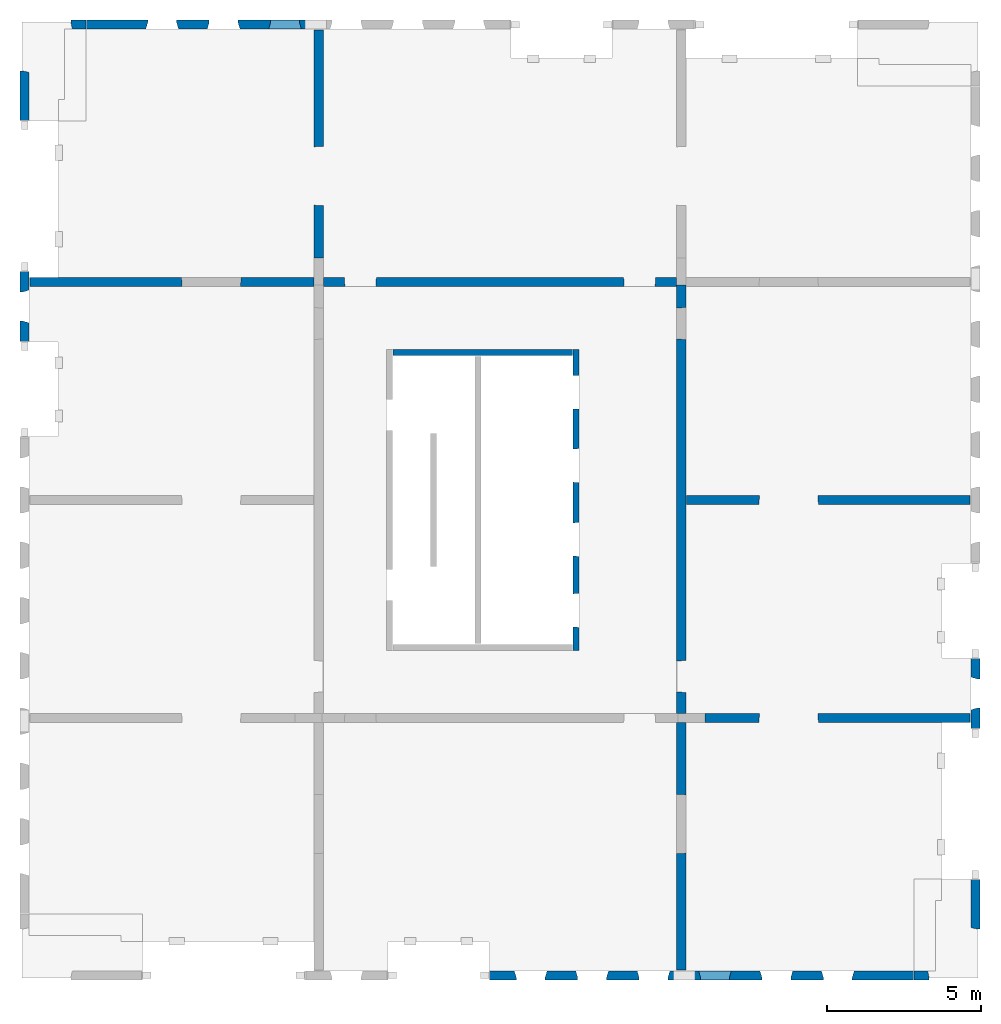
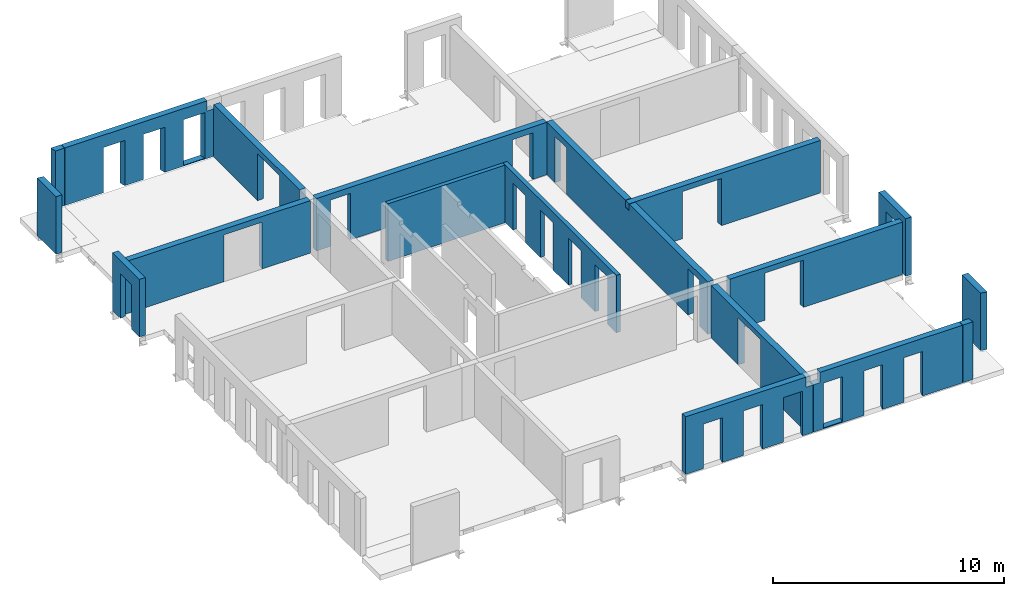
# One storey, part 3 of 4: 18 walls, 33 openings.
"""IFC2X3 building model written with IfcOpenShell, lengths in millimetres."""

from ifc_helpers import new_model, entity, si_unit, converted_unit, derived_unit, direction, frame, frame_2d, origin, origin_2d_with_axis, place, context, subcontext, project, spatial, rectangle, extrude, faceted_brep, material, layer, layer_set, layer_usage, type_object, element, save


model = new_model("IFC2X3")

# Units and contexts
model_context = context("Model", 3, precision=0.01, world=origin(), true_north=direction((6.12303176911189e-17, 1.0)))
body_context = subcontext(model_context, "Body", "Model", "MODEL_VIEW")
ifc_project = project(units=[si_unit("LENGTHUNIT", "METRE", prefix="MILLI"), si_unit("AREAUNIT", "SQUARE_METRE"), si_unit("VOLUMEUNIT", "CUBIC_METRE"), converted_unit("PLANEANGLEUNIT", "DEGREE", entity("IfcRatioMeasure", 0.0174532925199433), si_unit("PLANEANGLEUNIT", "RADIAN"), dimensions=[0, 0, 0, 0, 0, 0, 0]), si_unit("MASSUNIT", "GRAM", prefix="KILO"), derived_unit("MASSDENSITYUNIT", [(si_unit("MASSUNIT", "GRAM", prefix="KILO"), 1), (si_unit("LENGTHUNIT", "METRE"), -3)]), si_unit("TIMEUNIT", "SECOND"), si_unit("FREQUENCYUNIT", "HERTZ"), si_unit("THERMODYNAMICTEMPERATUREUNIT", "DEGREE_CELSIUS"), derived_unit("THERMALTRANSMITTANCEUNIT", [(si_unit("MASSUNIT", "GRAM", prefix="KILO"), 1), (si_unit("THERMODYNAMICTEMPERATUREUNIT", "KELVIN"), -1), (si_unit("TIMEUNIT", "SECOND"), -3)]), derived_unit("VOLUMETRICFLOWRATEUNIT", [(si_unit("LENGTHUNIT", "METRE"), 3), (si_unit("TIMEUNIT", "SECOND"), -1)]), si_unit("ELECTRICCURRENTUNIT", "AMPERE"), si_unit("ELECTRICVOLTAGEUNIT", "VOLT"), si_unit("POWERUNIT", "WATT"), si_unit("FORCEUNIT", "NEWTON", prefix="KILO"), si_unit("ILLUMINANCEUNIT", "LUX"), si_unit("LUMINOUSFLUXUNIT", "LUMEN"), si_unit("LUMINOUSINTENSITYUNIT", "CANDELA"), derived_unit("USERDEFINED", [(si_unit("MASSUNIT", "GRAM", prefix="KILO"), -1), (si_unit("LENGTHUNIT", "METRE"), -2), (si_unit("TIMEUNIT", "SECOND"), 3), (si_unit("LUMINOUSFLUXUNIT", "LUMEN"), 1)]), derived_unit("LINEARVELOCITYUNIT", [(si_unit("LENGTHUNIT", "METRE"), 1), (si_unit("TIMEUNIT", "SECOND"), -1)]), si_unit("PRESSUREUNIT", "PASCAL"), derived_unit("USERDEFINED", [(si_unit("LENGTHUNIT", "METRE"), -2), (si_unit("MASSUNIT", "GRAM", prefix="KILO"), 1), (si_unit("TIMEUNIT", "SECOND"), -2)])], contexts=[model_context])

# Site, building, storey
site_placement = place(None, origin())
site = spatial("IfcSite", under=ifc_project, at=site_placement, Name="Default", CompositionType="ELEMENT")
building_placement = place(site_placement, origin())
building = spatial("IfcBuilding", under=site, at=building_placement, Name="niet gebruiken", CompositionType="ELEMENT")
storey_placement = place(building_placement, frame((0.0, 0.0, 146520.0)))
storey = spatial("IfcBuildingStorey", under=building, at=storey_placement, Name="47 zevenenveertigste verdieping", CompositionType="ELEMENT", Elevation=146520.0)

# Wall, openings
ifc_material = material(Name="NLRS_f2_beton prefab")
ifc_layer_1 = layer(ifc_material, 200.0)
ifc_layer_set_1 = layer_set([ifc_layer_1], Name="Basic Wall:NLRS_22.21_WA_beton prefab d=200_gen")
ifc_layer_usage_1 = layer_usage(ifc_layer_set_1, "AXIS2", "NEGATIVE", 100.0)
wall_type_1 = type_object("IfcWallType", Name="Basic Wall:NLRS_22.21_WA_beton prefab d=200_gen", PredefinedType="STANDARD", material=ifc_layer_set_1)
wall_1_placement = place(storey_placement, frame((144230.0, 22400.0, -50.0), z_axis=(0.0, 0.0, 1.0), x_axis=(0.0, -1.0, 0.0)))
wall_1 = element("IfcWallStandardCase", 1, at=wall_1_placement, inside=storey, type_object=wall_type_1, material=ifc_layer_usage_1, Name="Basic Wall:NLRS_22.21_WA_beton prefab d=200_gen", ObjectType="Basic Wall:NLRS_22.21_WA_beton prefab d=200_gen", context=body_context, shape_type="SweptSolid", body=[
    extrude(rectangle(XDim=9800.0, YDim=199.999999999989, at=frame_2d((4900.0, -3.69482222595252e-13), x_axis=(-1.0, 0.0))), origin(), (0.0, 0.0, 1.0), 3040.0),
])
opening_1_placement = place(wall_1_placement, frame((9047.0, -100.0, 0.0)))
element("IfcOpeningElement", 2, at=opening_1_placement, cuts=wall_1, Name="Basic Wall:NLRS_22.21_WA_beton prefab d=200_gen", ObjectType="Opening", context=body_context, shape_type="Brep", body=[
    faceted_brep([(-1104.0, 200.0, 2502.0), (-1104.0, 200.0, 0.0), (-1092.0, 0.0, 0.0), (-1092.0, 0.0, 2490.0), (0.0, 200.0, 0.0), (-12.0, 0.0, 0.0), (-12.0, 0.0, 2490.0), (0.0, 200.0, 2502.0)], [[[0, 1, 2, 3]], [[1, 4, 5, 2]], [[6, 3, 2, 5]], [[7, 4, 1, 0]], [[7, 0, 3, 6]], [[4, 7, 6, 5]]]),
])
opening_2_placement = place(wall_1_placement, frame((6737.0, -100.0, 0.0)))
element("IfcOpeningElement", 3, at=opening_2_placement, cuts=wall_1, Name="Basic Wall:NLRS_22.21_WA_beton prefab d=200_gen", ObjectType="Opening", context=body_context, shape_type="Brep", body=[
    faceted_brep([(-1104.0, 200.0, 2502.0), (-1104.0, 200.0, 0.0), (-1092.0, 0.0, 0.0), (-1092.0, 0.0, 2490.0), (0.0, 200.0, 0.0), (-12.0, 0.0, 0.0), (-12.0, 0.0, 2490.0), (0.0, 200.0, 2502.0)], [[[0, 1, 2, 3]], [[1, 4, 5, 2]], [[6, 3, 2, 5]], [[7, 4, 1, 0]], [[7, 0, 3, 6]], [[4, 7, 6, 5]]]),
])
opening_3_placement = place(wall_1_placement, frame((4332.0, -100.0, 0.0)))
element("IfcOpeningElement", 4, at=opening_3_placement, cuts=wall_1, Name="Basic Wall:NLRS_22.21_WA_beton prefab d=200_gen", ObjectType="Opening", context=body_context, shape_type="Brep", body=[
    faceted_brep([(-1104.0, 200.0, 2502.0), (-1104.0, 200.0, 0.0), (-1092.0, 0.0, 0.0), (-1092.0, 0.0, 2490.0), (0.0, 200.0, 0.0), (-12.0, 0.0, 0.0), (-12.0, 0.0, 2490.0), (0.0, 200.0, 2502.0)], [[[0, 1, 2, 3]], [[1, 4, 5, 2]], [[6, 3, 2, 5]], [[7, 4, 1, 0]], [[7, 0, 3, 6]], [[4, 7, 6, 5]]]),
])
opening_4_placement = place(wall_1_placement, frame((1942.0, -100.0, 0.0)))
element("IfcOpeningElement", 5, at=opening_4_placement, cuts=wall_1, Name="Basic Wall:NLRS_22.21_WA_beton prefab d=200_gen", ObjectType="Opening", context=body_context, shape_type="Brep", body=[
    faceted_brep([(-1104.0, 200.0, 2502.0), (-1104.0, 200.0, 0.0), (-1092.0, 0.0, 0.0), (-1092.0, 0.0, 2490.0), (0.0, 200.0, 0.0), (-12.0, 0.0, 0.0), (-12.0, 0.0, 2490.0), (0.0, 200.0, 2502.0)], [[[0, 1, 2, 3]], [[1, 4, 5, 2]], [[6, 3, 2, 5]], [[7, 4, 1, 0]], [[7, 0, 3, 6]], [[4, 7, 6, 5]]]),
])

# Wall
ifc_layer_usage_2 = layer_usage(ifc_layer_set_1, "AXIS2", "NEGATIVE", 100.0)
wall_2_placement = place(storey_placement, frame((138270.0, 22300.0, -50.0)))
element("IfcWallStandardCase", 6, at=wall_2_placement, inside=storey, type_object=wall_type_1, material=ifc_layer_usage_2, Name="Basic Wall:NLRS_22.21_WA_beton prefab d=200_gen", ObjectType="Basic Wall:NLRS_22.21_WA_beton prefab d=200_gen", context=body_context, shape_type="SweptSolid", body=[
    extrude(rectangle(XDim=5839.99999999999, YDim=199.999999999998, at=frame_2d((2919.99999999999, -7.60280727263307e-13), x_axis=(-1.0, 0.0))), origin(), (0.0, 0.0, 1.0), 3040.0),
])

# Wall, opening
ifc_layer_2 = layer(ifc_material, 300.0)
ifc_layer_set_2 = layer_set([ifc_layer_2], Name="Basic Wall:NLRS_22.21_WA_beton prefab d=300_gen")
ifc_layer_usage_3 = layer_usage(ifc_layer_set_2, "AXIS2", "NEGATIVE", 150.0)
wall_type_2 = type_object("IfcWallType", Name="Basic Wall:NLRS_22.21_WA_beton prefab d=300_gen", PredefinedType="STANDARD", material=ifc_layer_set_2)
wall_3_placement = place(storey_placement, frame((147650.0, 10250.0, -70.0), z_axis=(0.0, 0.0, 1.0), x_axis=(0.0, -1.0, 0.0)))
wall_3 = element("IfcWallStandardCase", 7, at=wall_3_placement, inside=storey, type_object=wall_type_2, material=ifc_layer_usage_3, Name="Basic Wall:NLRS_22.21_WA_beton prefab d=300_gen", ObjectType="Basic Wall:NLRS_22.21_WA_beton prefab d=300_gen", context=body_context, shape_type="SweptSolid", body=[
    extrude(rectangle(XDim=8059.99999999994, YDim=300.000000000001, at=frame_2d((4029.99999999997, 3.69482222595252e-13), x_axis=(-1.0, 0.0))), origin(), (0.0, 0.0, 1.0), 2769.99999999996),
])
opening_5_placement = place(wall_3_placement, frame((4268.0, -150.0, 0.0)))
element("IfcOpeningElement", 8, at=opening_5_placement, cuts=wall_3, Name="Basic Wall:NLRS_22.21_WA_beton prefab d=300_gen", ObjectType="Opening", context=body_context, shape_type="Brep", body=[
    faceted_brep([(-18.0, 300.0, 2470.0), (-18.0, 300.0, 0.0), (-1918.0, 300.0, 0.0), (-1918.0, 300.0, 2470.0), (0.0, 0.0, 2488.0), (-1936.0, 0.0, 2488.0), (-1936.0, 0.0, 0.0), (0.0, 0.0, 0.0)], [[[0, 1, 2, 3]], [[4, 5, 6, 7]], [[4, 0, 3, 5]], [[5, 3, 2, 6]], [[6, 2, 1, 7]], [[7, 1, 0, 4]]]),
])

# Wall, openings
ifc_layer_usage_4 = layer_usage(ifc_layer_set_2, "AXIS2", "NEGATIVE", 150.0)
wall_4_placement = place(storey_placement, frame((157060.0, 17500.0, -70.0), z_axis=(0.0, 0.0, 1.0), x_axis=(-1.0, 0.0, 0.0)))
wall_4 = element("IfcWallStandardCase", 9, at=wall_4_placement, inside=storey, type_object=wall_type_2, material=ifc_layer_usage_4, Name="Basic Wall:NLRS_22.21_WA_beton prefab d=300_gen", ObjectType="Basic Wall:NLRS_22.21_WA_beton prefab d=300_gen", context=body_context, shape_type="SweptSolid", body=[
    extrude(rectangle(XDim=9559.9999999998, YDim=300.000000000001, at=frame_2d((4779.9999999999, -1.84741111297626e-13), x_axis=(-1.0, 0.0))), origin(), (0.0, 0.0, 1.0), 2769.99999999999),
])
opening_6_placement = place(wall_4_placement, frame((6878.0, 150.0, 0.0)))
element("IfcOpeningElement", 10, at=opening_6_placement, cuts=wall_4, Name="Basic Wall:NLRS_22.21_WA_beton prefab d=300_gen", ObjectType="Opening", context=body_context, shape_type="Brep", body=[
    faceted_brep([(-18.0, -300.0, 2470.0), (-1918.0, -300.0, 2470.0), (-1918.0, -300.0, 0.0), (-18.0, -300.0, 0.0), (0.0, 0.0, 2488.0), (0.0, 0.0, 0.0), (-1936.0, 0.0, 0.0), (-1936.0, 0.0, 2488.0)], [[[0, 1, 2, 3]], [[4, 5, 6, 7]], [[4, 7, 1, 0]], [[7, 6, 2, 1]], [[6, 5, 3, 2]], [[5, 4, 0, 3]]]),
])
opening_7_placement = place(wall_4_placement, origin())
element("IfcOpeningElement", 11, at=opening_7_placement, cuts=wall_4, Name="Basic Wall:NLRS_22.21_WA_beton prefab d=300_gen", ObjectType="Opening", context=body_context, shape_type="SweptSolid", body=[
    extrude(rectangle(XDim=2439.99999999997, YDim=319.999999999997, at=frame_2d((0.0, 0.0), x_axis=(0.0, 1.0))), frame((9400.0, 150.0, 1220.0), z_axis=(0.0, -1.0, 0.0), x_axis=(1.0, 0.0, 0.0)), (0.0, 0.0, 1.0), 300.0),
])

# Wall, opening
ifc_layer_usage_5 = layer_usage(ifc_layer_set_2, "AXIS2", "NEGATIVE", 150.0)
wall_5_placement = place(storey_placement, frame((135700.0, 24600.0, -70.0), z_axis=(0.0, 0.0, 1.0), x_axis=(-1.0, 0.0, 0.0)))
wall_5 = element("IfcWallStandardCase", 12, at=wall_5_placement, inside=storey, type_object=wall_type_2, material=ifc_layer_usage_5, Name="Basic Wall:NLRS_22.21_WA_beton prefab d=300_gen", ObjectType="Basic Wall:NLRS_22.21_WA_beton prefab d=300_gen", context=body_context, shape_type="SweptSolid", body=[
    extrude(rectangle(XDim=9259.99999999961, YDim=300.000000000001, at=frame_2d((4629.99999999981, -2.41584530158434e-13), x_axis=(-1.0, 0.0))), origin(), (0.0, 0.0, 1.0), 2769.99999999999),
])
opening_8_placement = place(wall_5_placement, frame((4318.0, 150.0, 0.0)))
element("IfcOpeningElement", 13, at=opening_8_placement, cuts=wall_5, Name="Basic Wall:NLRS_22.21_WA_beton prefab d=300_gen", ObjectType="Opening", context=body_context, shape_type="Brep", body=[
    faceted_brep([(-1918.0, 0.0, 2470.0), (-18.0, 0.0, 2470.0), (-18.0, 0.0, 0.0), (-1918.0, 0.0, 0.0), (-1936.0, -300.0, 2488.0), (-1936.0, -300.0, 0.0), (0.0, -300.0, 0.0), (0.0, -300.0, 2488.0)], [[[0, 1, 2, 3]], [[4, 5, 6, 7]], [[4, 7, 1, 0]], [[7, 6, 2, 1]], [[6, 5, 3, 2]], [[5, 4, 0, 3]]]),
])

ifc_layer_usage_6 = layer_usage(ifc_layer_set_2, "AXIS2", "NEGATIVE", 150.0)
wall_6_placement = place(storey_placement, frame((148430.0, 10400.0, -70.0)))
wall_6 = element("IfcWallStandardCase", 14, at=wall_6_placement, inside=storey, type_object=wall_type_2, material=ifc_layer_usage_6, Name="Basic Wall:NLRS_22.21_WA_beton prefab d=300_gen", ObjectType="Basic Wall:NLRS_22.21_WA_beton prefab d=300_gen", context=body_context, shape_type="SweptSolid", body=[
    extrude(rectangle(XDim=8630.00000000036, YDim=300.000000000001, at=frame_2d((4315.00000000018, 0.0), x_axis=(-1.0, 0.0))), origin(), (0.0, 0.0, 1.0), 2769.99999999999),
])
opening_9_placement = place(wall_6_placement, frame((1752.0, -150.0, 0.0)))
element("IfcOpeningElement", 15, at=opening_9_placement, cuts=wall_6, Name="Basic Wall:NLRS_22.21_WA_beton prefab d=300_gen", ObjectType="Opening", context=body_context, shape_type="Brep", body=[
    faceted_brep([(18.0, 300.0, 2470.0), (1918.0, 300.0, 2470.0), (1918.0, 300.0, 0.0), (18.0, 300.0, 0.0), (0.0, 0.0, 2488.0), (0.0, 0.0, 0.0), (1936.0, 0.0, 0.0), (1936.0, 0.0, 2488.0)], [[[0, 1, 2, 3]], [[4, 5, 6, 7]], [[4, 7, 1, 0]], [[7, 6, 2, 1]], [[6, 5, 3, 2]], [[5, 4, 0, 3]]]),
])

ifc_layer_usage_7 = layer_usage(ifc_layer_set_2, "AXIS2", "NEGATIVE", 150.0)
wall_7_placement = place(storey_placement, frame((135850.0, 25380.0, -70.0), z_axis=(0.0, 0.0, 1.0), x_axis=(0.0, 1.0, 0.0)))
wall_7 = element("IfcWallStandardCase", 16, at=wall_7_placement, inside=storey, type_object=wall_type_2, material=ifc_layer_usage_7, Name="Basic Wall:NLRS_22.21_WA_beton prefab d=300_gen", ObjectType="Basic Wall:NLRS_22.21_WA_beton prefab d=300_gen", context=body_context, shape_type="SweptSolid", body=[
    extrude(rectangle(XDim=7430.00000000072, YDim=300.000000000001, at=frame_2d((3715.00000000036, -5.62749846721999e-12), x_axis=(-1.0, 0.0))), origin(), (0.0, 0.0, 1.0), 2769.99999999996),
])
opening_10_placement = place(wall_7_placement, frame((1702.0, 150.0, 0.0)))
element("IfcOpeningElement", 17, at=opening_10_placement, cuts=wall_7, Name="Basic Wall:NLRS_22.21_WA_beton prefab d=300_gen", ObjectType="Opening", context=body_context, shape_type="Brep", body=[
    faceted_brep([(1918.0, 0.0, 2470.0), (1918.0, 0.0, 0.0), (18.0, 0.0, 0.0), (18.0, 0.0, 2470.0), (1936.0, -300.0, 2488.0), (0.0, -300.0, 2488.0), (0.0, -300.0, 0.0), (1936.0, -300.0, 0.0)], [[[0, 1, 2, 3]], [[4, 5, 6, 7]], [[4, 0, 3, 5]], [[5, 3, 2, 6]], [[6, 2, 1, 7]], [[7, 1, 0, 4]]]),
])

# Wall, openings
ifc_layer_usage_8 = layer_usage(ifc_layer_set_2, "AXIS2", "NEGATIVE", 150.0)
wall_8_placement = place(storey_placement, frame((147650.0, 24500.0, -70.0), z_axis=(0.0, 0.0, 1.0), x_axis=(0.0, -1.0, 0.0)))
wall_8 = element("IfcWallStandardCase", 18, at=wall_8_placement, inside=storey, type_object=wall_type_2, material=ifc_layer_usage_8, Name="Basic Wall:NLRS_22.21_WA_beton prefab d=300_gen", ObjectType="Basic Wall:NLRS_22.21_WA_beton prefab d=300_gen", context=body_context, shape_type="SweptSolid", body=[
    extrude(rectangle(XDim=13949.999999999, YDim=300.000000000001, at=frame_2d((6974.99999999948, 4.2632564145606e-14), x_axis=(-1.0, 0.0))), origin(), (0.0, 0.0, 1.0), 2770.00000000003),
])
opening_11_placement = place(wall_8_placement, frame((13268.0, -150.0, 0.0)))
element("IfcOpeningElement", 19, at=opening_11_placement, cuts=wall_8, Name="Basic Wall:NLRS_22.21_WA_beton prefab d=300_gen", ObjectType="Opening", context=body_context, shape_type="Brep", body=[
    faceted_brep([(-1042.0, 300.0, 2466.0), (-1042.0, 300.0, 0.0), (-1024.0, 0.0, 0.0), (-1024.0, 0.0, 2448.0), (0.0, 300.0, 0.0), (-18.0, 0.0, 0.0), (-18.0, 0.0, 2448.0), (0.0, 300.0, 2466.0)], [[[0, 1, 2, 3]], [[1, 4, 5, 2]], [[6, 3, 2, 5]], [[7, 4, 1, 0]], [[7, 0, 3, 6]], [[4, 7, 6, 5]]]),
])
opening_12_placement = place(wall_8_placement, frame((1774.0, -150.0, 0.0)))
element("IfcOpeningElement", 20, at=opening_12_placement, cuts=wall_8, Name="Basic Wall:NLRS_22.21_WA_beton prefab d=300_gen", ObjectType="Opening", context=body_context, shape_type="Brep", body=[
    faceted_brep([(-1042.0, 300.0, 2466.0), (-1042.0, 300.0, 0.0), (-1024.0, 0.0, 0.0), (-1024.0, 0.0, 2448.0), (0.0, 300.0, 0.0), (-18.0, 0.0, 0.0), (-18.0, 0.0, 2448.0), (0.0, 300.0, 2466.0)], [[[0, 1, 2, 3]], [[1, 4, 5, 2]], [[6, 3, 2, 5]], [[7, 4, 1, 0]], [[7, 0, 3, 6]], [[4, 7, 6, 5]]]),
])
opening_13_placement = place(wall_8_placement, origin())
element("IfcOpeningElement", 21, at=opening_13_placement, cuts=wall_8, Name="Basic Wall:NLRS_22.21_WA_beton prefab d=300_gen", ObjectType="Opening", context=body_context, shape_type="SweptSolid", body=[
    extrude(rectangle(XDim=350.000000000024, YDim=340.000000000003, at=frame_2d((-1.08002495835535e-12, -1.73230318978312e-11), x_axis=(0.0, 1.0))), frame((7000.0, 150.0, 2595.0), z_axis=(0.0, -1.0, 0.0), x_axis=(-1.0, 0.0, 0.0)), (0.0, 0.0, 1.0), 300.0),
])

ifc_layer_usage_9 = layer_usage(ifc_layer_set_2, "AXIS2", "NEGATIVE", 150.0)
wall_9_placement = place(storey_placement, frame((136000.0, 24600.0, -70.0)))
wall_9 = element("IfcWallStandardCase", 22, at=wall_9_placement, inside=storey, type_object=wall_type_2, material=ifc_layer_usage_9, Name="Basic Wall:NLRS_22.21_WA_beton prefab d=300_gen", ObjectType="Basic Wall:NLRS_22.21_WA_beton prefab d=300_gen", context=body_context, shape_type="SweptSolid", body=[
    extrude(rectangle(XDim=11499.9999999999, YDim=300.000000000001, at=frame_2d((5749.99999999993, -1.08002495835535e-12), x_axis=(-1.0, 0.0))), origin(), (0.0, 0.0, 1.0), 2769.99999999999),
])
opening_14_placement = place(wall_9_placement, frame((682.0, -150.0, 0.0)))
element("IfcOpeningElement", 23, at=opening_14_placement, cuts=wall_9, Name="Basic Wall:NLRS_22.21_WA_beton prefab d=300_gen", ObjectType="Opening", context=body_context, shape_type="Brep", body=[
    faceted_brep([(0.0, 300.0, 2466.0), (0.0, 300.0, 0.0), (18.0, 0.0, 0.0), (18.0, 0.0, 2448.0), (1042.0, 300.0, 0.0), (1024.0, 0.0, 0.0), (1024.0, 0.0, 2448.0), (1042.0, 300.0, 2466.0)], [[[0, 1, 2, 3]], [[1, 4, 5, 2]], [[6, 3, 2, 5]], [[7, 4, 1, 0]], [[7, 0, 3, 6]], [[4, 7, 6, 5]]]),
])
opening_15_placement = place(wall_9_placement, frame((9776.0, -150.0, 0.0)))
element("IfcOpeningElement", 24, at=opening_15_placement, cuts=wall_9, Name="Basic Wall:NLRS_22.21_WA_beton prefab d=300_gen", ObjectType="Opening", context=body_context, shape_type="Brep", body=[
    faceted_brep([(0.0, 300.0, 2466.0), (0.0, 300.0, 0.0), (18.0, 0.0, 0.0), (18.0, 0.0, 2448.0), (1042.0, 300.0, 0.0), (1024.0, 0.0, 0.0), (1024.0, 0.0, 2448.0), (1042.0, 300.0, 2466.0)], [[[0, 1, 2, 3]], [[1, 4, 5, 2]], [[6, 3, 2, 5]], [[7, 4, 1, 0]], [[7, 0, 3, 6]], [[4, 7, 6, 5]]]),
])

# Wall, opening
ifc_layer_3 = layer(ifc_material, 300.0)
ifc_layer_set_3 = layer_set([ifc_layer_3], Name="Basic Wall:NLRS_21.21_WA_beton prefab d=300/320_gen")
ifc_layer_usage_10 = layer_usage(ifc_layer_set_3, "AXIS2", "NEGATIVE", 150.0)
wall_type_3 = type_object("IfcWallType", Name="Basic Wall:NLRS_21.21_WA_beton prefab d=300/320_gen", PredefinedType="STANDARD", material=ifc_layer_set_3)
wall_10_placement = place(storey_placement, frame((157230.0, 12360.0, -50.0), z_axis=(0.0, 0.0, 1.0), x_axis=(0.0, -1.0, 0.0)))
wall_10 = element("IfcWallStandardCase", 25, at=wall_10_placement, inside=storey, type_object=wall_type_3, material=ifc_layer_usage_10, Name="Basic Wall:NLRS_21.21_WA_beton prefab d=300/320_gen", ObjectType="Basic Wall:NLRS_21.21_WA_beton prefab d=300/320_gen", context=body_context, shape_type="SweptSolid", body=[
    extrude(rectangle(XDim=2320.00000000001, YDim=300.000000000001, at=frame_2d((1160.0, -8.38440428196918e-12), x_axis=(-1.0, 0.0))), origin(), (0.0, 0.0, 1.0), 3040.0),
])
opening_16_placement = place(wall_10_placement, frame((1695.0, -150.0, -20.0)))
element("IfcOpeningElement", 26, at=opening_16_placement, cuts=wall_10, Name="Basic Wall:NLRS_21.21_WA_beton prefab d=300/320_gen", ObjectType="Opening", context=body_context, shape_type="Brep", body=[
    faceted_brep([(-1070.0, 0.0, 2405.0), (-1070.0, 0.0, 0.0), (0.0, 0.0, 0.0), (0.0, 0.0, 2405.0), (-65.0, 219.0, 2370.0), (-1005.0, 219.0, 2370.0), (-65.0, 219.0, 0.0), (-1005.0, 219.0, 0.0), (-1005.0, 300.0, 0.0), (-65.0, 300.0, 0.0), (-1005.0, 300.0, 2370.0), (-65.0, 300.0, 2370.0)], [[[0, 1, 2, 3]], [[3, 4, 5, 0]], [[2, 6, 4, 3]], [[1, 7, 8, 9, 6, 2]], [[0, 5, 7, 1]], [[10, 11, 9, 8]], [[10, 5, 4, 11]], [[11, 4, 6, 9]], [[8, 7, 5, 10]]]),
])

ifc_layer_usage_11 = layer_usage(ifc_layer_set_3, "AXIS2", "NEGATIVE", 150.0)
wall_11_placement = place(storey_placement, frame((126270.0, 22640.0, -50.0), z_axis=(0.0, 0.0, 1.0), x_axis=(0.0, 1.0, 0.0)))
wall_11 = element("IfcWallStandardCase", 27, at=wall_11_placement, inside=storey, type_object=wall_type_3, material=ifc_layer_usage_11, Name="Basic Wall:NLRS_21.21_WA_beton prefab d=300/320_gen", ObjectType="Basic Wall:NLRS_21.21_WA_beton prefab d=300/320_gen", context=body_context, shape_type="SweptSolid", body=[
    extrude(rectangle(XDim=2320.0, YDim=300.000000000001, at=frame_2d((1160.0, -3.60955709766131e-12), x_axis=(-1.0, 0.0))), origin(), (0.0, 0.0, 1.0), 3040.0),
])
opening_17_placement = place(wall_11_placement, frame((625.0, 150.0, -20.0)))
element("IfcOpeningElement", 28, at=opening_17_placement, cuts=wall_11, Name="Basic Wall:NLRS_21.21_WA_beton prefab d=300/320_gen", ObjectType="Opening", context=body_context, shape_type="Brep", body=[
    faceted_brep([(0.0, -300.0, 2405.0), (0.0, -300.0, 0.0), (1070.0, -300.0, 0.0), (1070.0, -300.0, 2405.0), (1005.0, -81.0, 2370.0), (65.0, -81.0, 2370.0), (1005.0, -81.0, 0.0), (65.0, -81.0, 0.0), (65.0, 0.0, 0.0), (1005.0, 0.0, 0.0), (65.0, 0.0, 2370.0), (1005.0, 0.0, 2370.0)], [[[0, 1, 2, 3]], [[3, 4, 5, 0]], [[2, 6, 4, 3]], [[1, 7, 8, 9, 6, 2]], [[0, 5, 7, 1]], [[10, 11, 9, 8]], [[10, 5, 4, 11]], [[11, 4, 6, 9]], [[8, 7, 5, 10]]]),
])

# Wall, openings
ifc_layer_usage_12 = layer_usage(ifc_layer_set_3, "AXIS2", "NEGATIVE", 150.0)
wall_12_placement = place(storey_placement, frame((128290.0, 32980.0, -50.0)))
wall_12 = element("IfcWallStandardCase", 29, at=wall_12_placement, inside=storey, type_object=wall_type_3, material=ifc_layer_usage_12, Name="Basic Wall:NLRS_21.21_WA_beton prefab d=300/320_gen", ObjectType="Basic Wall:NLRS_21.21_WA_beton prefab d=300/320_gen", context=body_context, shape_type="SweptSolid", body=[
    extrude(rectangle(XDim=7449.9999999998, YDim=300.000000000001, at=frame_2d((3724.9999999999, 0.0), x_axis=(-1.0, 0.0))), origin(), (0.0, 0.0, 1.0), 3040.0),
])
opening_18_placement = place(wall_12_placement, frame((3925.0, -150.0, -20.0)))
element("IfcOpeningElement", 30, at=opening_18_placement, cuts=wall_12, Name="Basic Wall:NLRS_21.21_WA_beton prefab d=300/320_gen", ObjectType="Opening", context=body_context, shape_type="Brep", body=[
    faceted_brep([(1070.0, 0.0, 2405.0), (0.0, 0.0, 2405.0), (0.0, 0.0, 0.0), (1070.0, 0.0, 0.0), (1005.0, 219.0, 2370.0), (65.0, 219.0, 2370.0), (65.0, 219.0, 0.0), (65.0, 300.0, 0.0), (1005.0, 300.0, 0.0), (1005.0, 219.0, 0.0), (1005.0, 300.0, 2370.0), (65.0, 300.0, 2370.0)], [[[0, 1, 2, 3]], [[1, 0, 4, 5]], [[2, 1, 5, 6]], [[3, 2, 6, 7, 8, 9]], [[0, 3, 9, 4]], [[10, 8, 7, 11]], [[10, 11, 5, 4]], [[11, 7, 6, 5]], [[8, 10, 4, 9]]]),
])
opening_19_placement = place(wall_12_placement, frame((1925.0, -150.0, -20.0)))
element("IfcOpeningElement", 31, at=opening_19_placement, cuts=wall_12, Name="Basic Wall:NLRS_21.21_WA_beton prefab d=300/320_gen", ObjectType="Opening", context=body_context, shape_type="Brep", body=[
    faceted_brep([(1070.0, 0.0, 2405.0), (0.0, 0.0, 2405.0), (0.0, 0.0, 0.0), (1070.0, 0.0, 0.0), (1005.0, 219.0, 2370.0), (65.0, 219.0, 2370.0), (65.0, 219.0, 0.0), (65.0, 300.0, 0.0), (1005.0, 300.0, 0.0), (1005.0, 219.0, 0.0), (1005.0, 300.0, 2370.0), (65.0, 300.0, 2370.0)], [[[0, 1, 2, 3]], [[1, 0, 4, 5]], [[2, 1, 5, 6]], [[3, 2, 6, 7, 8, 9]], [[0, 3, 9, 4]], [[10, 8, 7, 11]], [[10, 11, 5, 4]], [[11, 7, 6, 5]], [[8, 10, 4, 9]]]),
])
opening_20_placement = place(wall_12_placement, frame((5925.0, -150.0, 50.0)))
element("IfcOpeningElement", 32, at=opening_20_placement, cuts=wall_12, Name="Basic Wall:NLRS_21.21_WA_beton prefab d=300/320_gen", ObjectType="Opening", context=body_context, shape_type="Brep", body=[
    faceted_brep([(1070.0, 0.0, 2405.0), (0.0, 0.0, 2405.0), (0.0, 0.0, 0.0), (1070.0, 0.0, 0.0), (1005.0, 219.0, 2370.0), (65.0, 219.0, 2370.0), (65.0, 219.0, 0.0), (65.0, 300.0, 0.0), (1005.0, 300.0, 0.0), (1005.0, 219.0, 0.0), (1005.0, 300.0, 2370.0), (65.0, 300.0, 2370.0)], [[[0, 1, 2, 3]], [[1, 0, 4, 5]], [[2, 1, 5, 6]], [[3, 2, 6, 7, 8, 9]], [[0, 3, 9, 4]], [[10, 8, 7, 11]], [[10, 11, 5, 4]], [[11, 7, 6, 5]], [[8, 10, 4, 9]]]),
])
opening_21_placement = place(wall_12_placement, origin())
element("IfcOpeningElement", 33, at=opening_21_placement, cuts=wall_12, Name="Basic Wall:NLRS_21.21_WA_beton prefab d=300/320_gen", ObjectType="Opening", context=body_context, shape_type="SweptSolid", body=[
    extrude(rectangle(XDim=535.0, YDim=344.999999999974, at=origin_2d_with_axis()), frame((7277.49999999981, 150.0, 2772.5), z_axis=(0.0, -1.0, 0.0), x_axis=(0.0, 0.0, 1.0)), (0.0, 0.0, 1.0), 300.0),
])

ifc_layer_usage_13 = layer_usage(ifc_layer_set_3, "AXIS2", "NEGATIVE", 150.0)
wall_13_placement = place(storey_placement, frame((155210.0, 2020.0, -50.0), z_axis=(0.0, 0.0, 1.0), x_axis=(-1.0, 0.0, 0.0)))
wall_13 = element("IfcWallStandardCase", 34, at=wall_13_placement, inside=storey, type_object=wall_type_3, material=ifc_layer_usage_13, Name="Basic Wall:NLRS_21.21_WA_beton prefab d=300/320_gen", ObjectType="Basic Wall:NLRS_21.21_WA_beton prefab d=300/320_gen", context=body_context, shape_type="SweptSolid", body=[
    extrude(rectangle(XDim=7449.99999999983, YDim=300.0, at=frame_2d((3724.99999999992, 5.6843418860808e-14), x_axis=(-1.0, 0.0))), origin(), (0.0, 0.0, 1.0), 3040.0),
])
opening_22_placement = place(wall_13_placement, frame((4995.0, 150.0, -20.0)))
element("IfcOpeningElement", 35, at=opening_22_placement, cuts=wall_13, Name="Basic Wall:NLRS_21.21_WA_beton prefab d=300/320_gen", ObjectType="Opening", context=body_context, shape_type="Brep", body=[
    faceted_brep([(0.0, -300.0, 2405.0), (-1070.0, -300.0, 2405.0), (-1070.0, -300.0, 0.0), (0.0, -300.0, 0.0), (-65.0, -81.0, 2370.0), (-1005.0, -81.0, 2370.0), (-1005.0, -81.0, 0.0), (-1005.0, 0.0, 0.0), (-65.0, 0.0, 0.0), (-65.0, -81.0, 0.0), (-65.0, 0.0, 2370.0), (-1005.0, 0.0, 2370.0)], [[[0, 1, 2, 3]], [[1, 0, 4, 5]], [[2, 1, 5, 6]], [[3, 2, 6, 7, 8, 9]], [[0, 3, 9, 4]], [[10, 8, 7, 11]], [[10, 11, 5, 4]], [[11, 7, 6, 5]], [[8, 10, 4, 9]]]),
])
opening_23_placement = place(wall_13_placement, frame((2995.0, 150.0, -20.0)))
element("IfcOpeningElement", 36, at=opening_23_placement, cuts=wall_13, Name="Basic Wall:NLRS_21.21_WA_beton prefab d=300/320_gen", ObjectType="Opening", context=body_context, shape_type="Brep", body=[
    faceted_brep([(0.0, -300.0, 2405.0), (-1070.0, -300.0, 2405.0), (-1070.0, -300.0, 0.0), (0.0, -300.0, 0.0), (-65.0, -81.0, 2370.0), (-1005.0, -81.0, 2370.0), (-1005.0, -81.0, 0.0), (-1005.0, 0.0, 0.0), (-65.0, 0.0, 0.0), (-65.0, -81.0, 0.0), (-65.0, 0.0, 2370.0), (-1005.0, 0.0, 2370.0)], [[[0, 1, 2, 3]], [[1, 0, 4, 5]], [[2, 1, 5, 6]], [[3, 2, 6, 7, 8, 9]], [[0, 3, 9, 4]], [[10, 8, 7, 11]], [[10, 11, 5, 4]], [[11, 7, 6, 5]], [[8, 10, 4, 9]]]),
])
opening_24_placement = place(wall_13_placement, frame((6995.0, 150.0, 50.0)))
element("IfcOpeningElement", 37, at=opening_24_placement, cuts=wall_13, Name="Basic Wall:NLRS_21.21_WA_beton prefab d=300/320_gen", ObjectType="Opening", context=body_context, shape_type="Brep", body=[
    faceted_brep([(0.0, -300.0, 2405.0), (-1070.0, -300.0, 2405.0), (-1070.0, -300.0, 0.0), (0.0, -300.0, 0.0), (-65.0, -81.0, 2370.0), (-1005.0, -81.0, 2370.0), (-1005.0, -81.0, 0.0), (-1005.0, 0.0, 0.0), (-65.0, 0.0, 0.0), (-65.0, -81.0, 0.0), (-65.0, 0.0, 2370.0), (-1005.0, 0.0, 2370.0)], [[[0, 1, 2, 3]], [[1, 0, 4, 5]], [[2, 1, 5, 6]], [[3, 2, 6, 7, 8, 9]], [[0, 3, 9, 4]], [[10, 8, 7, 11]], [[10, 11, 5, 4]], [[11, 7, 6, 5]], [[8, 10, 4, 9]]]),
])
opening_25_placement = place(wall_13_placement, origin())
element("IfcOpeningElement", 38, at=opening_25_placement, cuts=wall_13, Name="Basic Wall:NLRS_21.21_WA_beton prefab d=300/320_gen", ObjectType="Opening", context=body_context, shape_type="SweptSolid", body=[
    extrude(rectangle(XDim=535.0, YDim=344.999999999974, at=origin_2d_with_axis()), frame((7277.49999999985, 150.0, 2772.5), z_axis=(0.0, -1.0, 0.0), x_axis=(0.0, 0.0, 1.0)), (0.0, 0.0, 1.0), 300.0),
])

# Wall, opening
ifc_layer_usage_14 = layer_usage(ifc_layer_set_3, "AXIS2", "NEGATIVE", 150.0)
wall_14_placement = place(storey_placement, frame((127780.0, 32980.0, -50.0)))
wall_14 = element("IfcWallStandardCase", 39, at=wall_14_placement, inside=storey, type_object=wall_type_3, material=ifc_layer_usage_14, Name="Basic Wall:NLRS_21.21_WA_beton prefab d=300/320_gen", ObjectType="Basic Wall:NLRS_21.21_WA_beton prefab d=300/320_gen", context=body_context, shape_type="SweptSolid", body=[
    extrude(rectangle(XDim=489.999999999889, YDim=300.000000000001, at=frame_2d((244.999999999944, -6.67910171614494e-13), x_axis=(-1.0, 0.0))), origin(), (0.0, 0.0, 1.0), 3040.0),
])
opening_26_placement = place(wall_14_placement, frame((0.0, -250.0, 0.0)))
element("IfcOpeningElement", 40, at=opening_26_placement, cuts=wall_14, Name="Basic Wall:NLRS_21.21_WA_beton prefab d=300/320_gen", ObjectType="Opening", context=body_context, shape_type="Brep", body=[
    faceted_brep([(0.0, 0.0, 3040.0), (65.0, 0.0, 3040.0), (0.0, 319.0, 3040.0), (0.0, 0.0, 0.0), (0.0, 319.0, 0.0), (65.0, 0.0, 0.0)], [[[0, 1, 2]], [[3, 4, 5]], [[1, 0, 3, 5]], [[0, 2, 4, 3]], [[2, 1, 5, 4]]]),
])

ifc_layer_usage_15 = layer_usage(ifc_layer_set_3, "AXIS2", "NEGATIVE", 150.0)
wall_15_placement = place(storey_placement, frame((126270.0, 29840.0, -50.0), z_axis=(0.0, 0.0, 1.0), x_axis=(0.0, 1.0, 0.0)))
wall_15 = element("IfcWallStandardCase", 41, at=wall_15_placement, inside=storey, type_object=wall_type_3, material=ifc_layer_usage_15, Name="Basic Wall:NLRS_21.21_WA_beton prefab d=300/320_gen", ObjectType="Basic Wall:NLRS_21.21_WA_beton prefab d=300/320_gen", context=body_context, shape_type="SweptSolid", body=[
    extrude(rectangle(XDim=1629.99999999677, YDim=300.000000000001, at=frame_2d((814.999999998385, 8.95283847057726e-13), x_axis=(-1.0, 0.0))), origin(), (0.0, 0.0, 1.0), 3040.0),
])
opening_27_placement = place(wall_15_placement, frame((1565.0, 69.0, 0.0)))
element("IfcOpeningElement", 42, at=opening_27_placement, cuts=wall_15, Name="Basic Wall:NLRS_21.21_WA_beton prefab d=300/320_gen", ObjectType="Opening", context=body_context, shape_type="Brep", body=[
    faceted_brep([(65.0, -319.0, 3040.0), (65.0, 0.0, 3040.0), (0.0, -319.0, 3040.0), (65.0, -319.0, 0.0), (0.0, -319.0, 0.0), (65.0, 0.0, 0.0)], [[[0, 1, 2]], [[3, 4, 5]], [[2, 4, 3, 0]], [[0, 3, 5, 1]], [[1, 5, 4, 2]]]),
])

ifc_layer_usage_16 = layer_usage(ifc_layer_set_3, "AXIS2", "NEGATIVE", 150.0)
wall_16_placement = place(storey_placement, frame((155720.0, 2020.0, -50.0), z_axis=(0.0, 0.0, 1.0), x_axis=(-1.0, 0.0, 0.0)))
wall_16 = element("IfcWallStandardCase", 43, at=wall_16_placement, inside=storey, type_object=wall_type_3, material=ifc_layer_usage_16, Name="Basic Wall:NLRS_21.21_WA_beton prefab d=300/320_gen", ObjectType="Basic Wall:NLRS_21.21_WA_beton prefab d=300/320_gen", context=body_context, shape_type="SweptSolid", body=[
    extrude(rectangle(XDim=489.999999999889, YDim=300.0, at=frame_2d((244.999999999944, 4.2632564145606e-14), x_axis=(-1.0, 0.0))), origin(), (0.0, 0.0, 1.0), 3040.0),
])
opening_28_placement = place(wall_16_placement, frame((65.0, 69.0, 0.0)))
element("IfcOpeningElement", 44, at=opening_28_placement, cuts=wall_16, Name="Basic Wall:NLRS_21.21_WA_beton prefab d=300/320_gen", ObjectType="Opening", context=body_context, shape_type="Brep", body=[
    faceted_brep([(-65.0, -319.0, 3040.0), (0.0, -319.0, 3040.0), (-65.0, 0.0, 3040.0), (-65.0, -319.0, 0.0), (-65.0, 0.0, 0.0), (0.0, -319.0, 0.0)], [[[0, 1, 2]], [[3, 4, 5]], [[1, 0, 3, 5]], [[0, 2, 4, 3]], [[2, 1, 5, 4]]]),
])

ifc_layer_usage_17 = layer_usage(ifc_layer_set_3, "AXIS2", "NEGATIVE", 150.0)
wall_17_placement = place(storey_placement, frame((157230.0, 5160.0, -50.0), z_axis=(0.0, 0.0, 1.0), x_axis=(0.0, -1.0, 0.0)))
wall_17 = element("IfcWallStandardCase", 45, at=wall_17_placement, inside=storey, type_object=wall_type_3, material=ifc_layer_usage_17, Name="Basic Wall:NLRS_21.21_WA_beton prefab d=300/320_gen", ObjectType="Basic Wall:NLRS_21.21_WA_beton prefab d=300/320_gen", context=body_context, shape_type="SweptSolid", body=[
    extrude(rectangle(XDim=1629.99999999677, YDim=300.000000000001, at=frame_2d((814.999999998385, 4.76063632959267e-12), x_axis=(-1.0, 0.0))), origin(), (0.0, 0.0, 1.0), 3040.0),
])
opening_29_placement = place(wall_17_placement, frame((1630.0, -250.0, 0.0)))
element("IfcOpeningElement", 46, at=opening_29_placement, cuts=wall_17, Name="Basic Wall:NLRS_21.21_WA_beton prefab d=300/320_gen", ObjectType="Opening", context=body_context, shape_type="Brep", body=[
    faceted_brep([(0.0, 0.0, 3040.0), (0.0, 319.0, 3040.0), (-65.0, 0.0, 3040.0), (0.0, 0.0, 0.0), (-65.0, 0.0, 0.0), (0.0, 319.0, 0.0)], [[[0, 1, 2]], [[3, 4, 5]], [[2, 4, 3, 0]], [[0, 3, 5, 1]], [[1, 5, 4, 2]]]),
])

# Wall, openings
ifc_layer_usage_18 = layer_usage(ifc_layer_set_3, "AXIS2", "NEGATIVE", 150.0)
wall_18_placement = place(storey_placement, frame((147740.0, 2020.0, -50.0), z_axis=(0.0, 0.0, 1.0), x_axis=(-1.0, 0.0, 0.0)))
wall_18 = element("IfcWallStandardCase", 47, at=wall_18_placement, inside=storey, type_object=wall_type_3, material=ifc_layer_usage_18, Name="Basic Wall:NLRS_21.21_WA_beton prefab d=300/320_gen", ObjectType="Basic Wall:NLRS_21.21_WA_beton prefab d=300/320_gen", context=body_context, shape_type="SweptSolid", body=[
    extrude(rectangle(XDim=6350.00000000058, YDim=300.0, at=frame_2d((3175.00000000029, -4.2632564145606e-14), x_axis=(-1.0, 0.0))), origin(), (0.0, 0.0, 1.0), 3040.0),
])
opening_30_placement = place(wall_18_placement, frame((1525.0, 150.0, -20.0)))
element("IfcOpeningElement", 48, at=opening_30_placement, cuts=wall_18, Name="Basic Wall:NLRS_21.21_WA_beton prefab d=300/320_gen", ObjectType="Opening", context=body_context, shape_type="Brep", body=[
    faceted_brep([(0.0, -300.0, 2405.0), (-1070.0, -300.0, 2405.0), (-1070.0, -300.0, 0.0), (0.0, -300.0, 0.0), (-65.0, -81.0, 2370.0), (-1005.0, -81.0, 2370.0), (-1005.0, -81.0, 0.0), (-1005.0, 0.0, 0.0), (-65.0, 0.0, 0.0), (-65.0, -81.0, 0.0), (-65.0, 0.0, 2370.0), (-1005.0, 0.0, 2370.0)], [[[0, 1, 2, 3]], [[1, 0, 4, 5]], [[2, 1, 5, 6]], [[3, 2, 6, 7, 8, 9]], [[0, 3, 9, 4]], [[10, 8, 7, 11]], [[10, 11, 5, 4]], [[11, 7, 6, 5]], [[8, 10, 4, 9]]]),
])
opening_31_placement = place(wall_18_placement, frame((3525.0, 150.0, -20.0)))
element("IfcOpeningElement", 49, at=opening_31_placement, cuts=wall_18, Name="Basic Wall:NLRS_21.21_WA_beton prefab d=300/320_gen", ObjectType="Opening", context=body_context, shape_type="Brep", body=[
    faceted_brep([(0.0, -300.0, 2405.0), (-1070.0, -300.0, 2405.0), (-1070.0, -300.0, 0.0), (0.0, -300.0, 0.0), (-65.0, -81.0, 2370.0), (-1005.0, -81.0, 2370.0), (-1005.0, -81.0, 0.0), (-1005.0, 0.0, 0.0), (-65.0, 0.0, 0.0), (-65.0, -81.0, 0.0), (-65.0, 0.0, 2370.0), (-1005.0, 0.0, 2370.0)], [[[0, 1, 2, 3]], [[1, 0, 4, 5]], [[2, 1, 5, 6]], [[3, 2, 6, 7, 8, 9]], [[0, 3, 9, 4]], [[10, 8, 7, 11]], [[10, 11, 5, 4]], [[11, 7, 6, 5]], [[8, 10, 4, 9]]]),
])
opening_32_placement = place(wall_18_placement, frame((5525.0, 150.0, -20.0)))
element("IfcOpeningElement", 50, at=opening_32_placement, cuts=wall_18, Name="Basic Wall:NLRS_21.21_WA_beton prefab d=300/320_gen", ObjectType="Opening", context=body_context, shape_type="Brep", body=[
    faceted_brep([(0.0, -300.0, 2405.0), (-1070.0, -300.0, 2405.0), (-1070.0, -300.0, 0.0), (0.0, -300.0, 0.0), (-65.0, -81.0, 2370.0), (-1005.0, -81.0, 2370.0), (-1005.0, -81.0, 0.0), (-1005.0, 0.0, 0.0), (-65.0, 0.0, 0.0), (-65.0, -81.0, 0.0), (-65.0, 0.0, 2370.0), (-1005.0, 0.0, 2370.0)], [[[0, 1, 2, 3]], [[1, 0, 4, 5]], [[2, 1, 5, 6]], [[3, 2, 6, 7, 8, 9]], [[0, 3, 9, 4]], [[10, 8, 7, 11]], [[10, 11, 5, 4]], [[11, 7, 6, 5]], [[8, 10, 4, 9]]]),
])
opening_33_placement = place(wall_18_placement, origin())
element("IfcOpeningElement", 51, at=opening_33_placement, cuts=wall_18, Name="Basic Wall:NLRS_21.21_WA_beton prefab d=300/320_gen", ObjectType="Opening", context=body_context, shape_type="SweptSolid", body=[
    extrude(rectangle(XDim=534.999999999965, YDim=345.000000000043, at=frame_2d((0.0, 0.0), x_axis=(0.0, 1.0))), frame((172.500000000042, 150.0, 2772.5), z_axis=(0.0, -1.0, 0.0), x_axis=(-1.0, 0.0, 0.0)), (0.0, 0.0, 1.0), 300.0),
])

save(model, "model.ifc")
